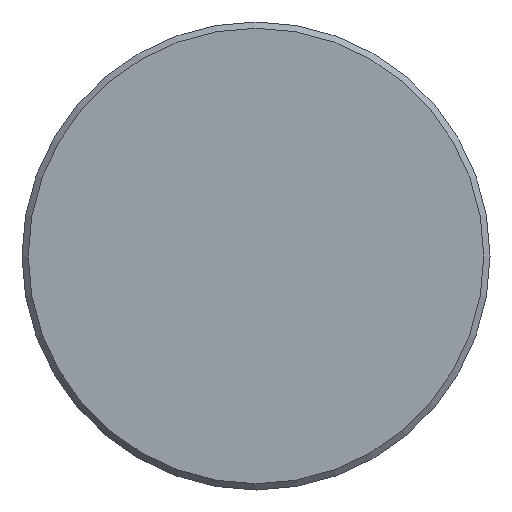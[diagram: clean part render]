
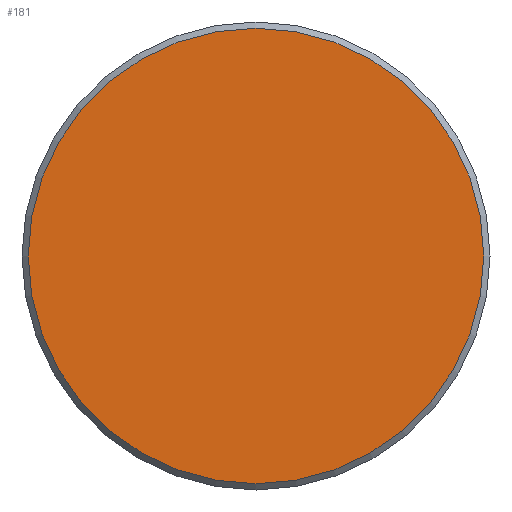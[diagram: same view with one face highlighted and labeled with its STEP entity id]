
A CAD part, front view. The second image highlights one B-rep face of the part: STEP entity #181.
In plain terms, the highlighted planar face has unit normal (0, -1, 0).
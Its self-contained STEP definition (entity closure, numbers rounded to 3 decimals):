
#181 = ADVANCED_FACE( '', ( #362 ), #363, .F. );
#362 = FACE_OUTER_BOUND( '', #562, .T. );
#363 = PLANE( '', #563 );
#562 = EDGE_LOOP( '', ( #828 ) );
#563 = AXIS2_PLACEMENT_3D( '', #829, #830, #831 );
#828 = ORIENTED_EDGE( '', *, *, #1150, .T. );
#829 = CARTESIAN_POINT( '', ( 29.2, 0., 0. ) );
#830 = DIRECTION( '', ( 0., 1., 0. ) );
#831 = DIRECTION( '', ( 0., 0., 1. ) );
#1150 = EDGE_CURVE( '', #1338, #1338, #1339, .T. );
#1338 = VERTEX_POINT( '', #1632 );
#1339 = CIRCLE( '', #1633, 29.2 );
#1632 = CARTESIAN_POINT( '', ( 0., 0., -29.2 ) );
#1633 = AXIS2_PLACEMENT_3D( '', #2067, #2068, #2069 );
#2067 = CARTESIAN_POINT( '', ( 0., 0., 0. ) );
#2068 = DIRECTION( '', ( 0., -1., 0. ) );
#2069 = DIRECTION( '', ( 0., 0., -1. ) );
